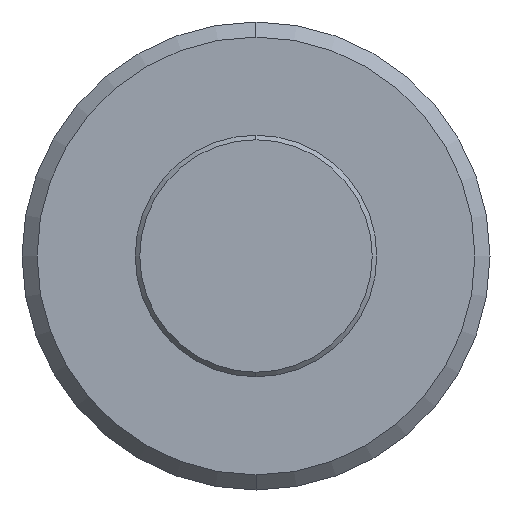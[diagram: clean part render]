
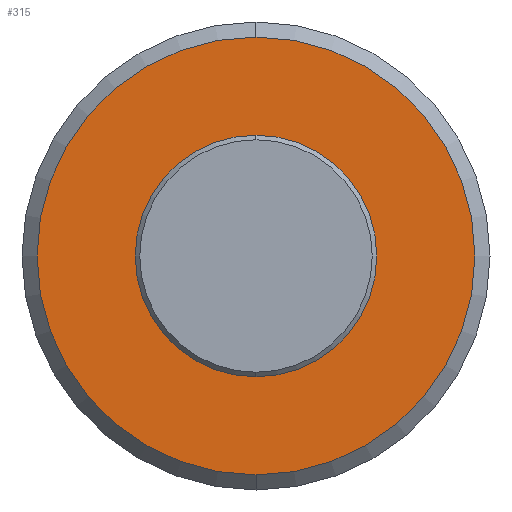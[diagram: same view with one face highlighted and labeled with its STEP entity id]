
A CAD part, left-side view. The second image highlights one B-rep face of the part: STEP entity #315.
In plain terms, the highlighted planar face has unit normal (-1, 0, 0).
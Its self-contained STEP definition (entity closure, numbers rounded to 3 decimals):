
#10 = FACE_OUTER_BOUND ( 'NONE', #479, .T. ) ;
#23 = AXIS2_PLACEMENT_3D ( 'NONE', #627, #347, #621 ) ;
#26 = CARTESIAN_POINT ( 'NONE',  ( -24.026, 0., 0. ) ) ;
#27 = FACE_BOUND ( 'NONE', #174, .T. ) ;
#41 = DIRECTION ( 'NONE',  ( 1., 0., 0. ) ) ;
#57 = AXIS2_PLACEMENT_3D ( 'NONE', #86, #41, #434 ) ;
#86 = CARTESIAN_POINT ( 'NONE',  ( -24.026, 8., 0. ) ) ;
#119 = CARTESIAN_POINT ( 'NONE',  ( -24.026, 0., 14.5 ) ) ;
#132 = AXIS2_PLACEMENT_3D ( 'NONE', #293, #243, #343 ) ;
#151 = EDGE_CURVE ( 'NONE', #608, #521, #594, .T. ) ;
#155 = CIRCLE ( 'NONE', #510, 8. ) ;
#166 = VERTEX_POINT ( 'NONE', #420 ) ;
#167 = DIRECTION ( 'NONE',  ( 0., 0., 1. ) ) ;
#174 = EDGE_LOOP ( 'NONE', ( #464, #410 ) ) ;
#191 = EDGE_CURVE ( 'NONE', #521, #608, #234, .T. ) ;
#192 = AXIS2_PLACEMENT_3D ( 'NONE', #26, #422, #612 ) ;
#234 = CIRCLE ( 'NONE', #132, 14.5 ) ;
#243 = DIRECTION ( 'NONE',  ( -1., 0., 0. ) ) ;
#293 = CARTESIAN_POINT ( 'NONE',  ( -24.026, 0., 0. ) ) ;
#303 = PLANE ( 'NONE',  #57 ) ;
#309 = CARTESIAN_POINT ( 'NONE',  ( -24.026, 0., -8. ) ) ;
#315 = ADVANCED_FACE ( 'NONE', ( #27, #10 ), #303, .F. ) ;
#320 = ORIENTED_EDGE ( 'NONE', *, *, #151, .T. ) ;
#325 = EDGE_CURVE ( 'NONE', #426, #166, #593, .T. ) ;
#343 = DIRECTION ( 'NONE',  ( 0., 0., 1. ) ) ;
#347 = DIRECTION ( 'NONE',  ( -1., 0., 0. ) ) ;
#369 = CARTESIAN_POINT ( 'NONE',  ( -24.026, 0., 0. ) ) ;
#410 = ORIENTED_EDGE ( 'NONE', *, *, #325, .F. ) ;
#411 = DIRECTION ( 'NONE',  ( -1., 0., 0. ) ) ;
#420 = CARTESIAN_POINT ( 'NONE',  ( -24.026, 0., 8. ) ) ;
#422 = DIRECTION ( 'NONE',  ( -1., 0., 0. ) ) ;
#426 = VERTEX_POINT ( 'NONE', #309 ) ;
#434 = DIRECTION ( 'NONE',  ( 0., 0., -1. ) ) ;
#446 = ORIENTED_EDGE ( 'NONE', *, *, #191, .T. ) ;
#464 = ORIENTED_EDGE ( 'NONE', *, *, #598, .F. ) ;
#479 = EDGE_LOOP ( 'NONE', ( #446, #320 ) ) ;
#510 = AXIS2_PLACEMENT_3D ( 'NONE', #369, #411, #167 ) ;
#521 = VERTEX_POINT ( 'NONE', #542 ) ;
#542 = CARTESIAN_POINT ( 'NONE',  ( -24.026, 0., -14.5 ) ) ;
#593 = CIRCLE ( 'NONE', #23, 8. ) ;
#594 = CIRCLE ( 'NONE', #192, 14.5 ) ;
#598 = EDGE_CURVE ( 'NONE', #166, #426, #155, .T. ) ;
#608 = VERTEX_POINT ( 'NONE', #119 ) ;
#612 = DIRECTION ( 'NONE',  ( 0., 0., 1. ) ) ;
#621 = DIRECTION ( 'NONE',  ( 0., 0., 1. ) ) ;
#627 = CARTESIAN_POINT ( 'NONE',  ( -24.026, 0., 0. ) ) ;
